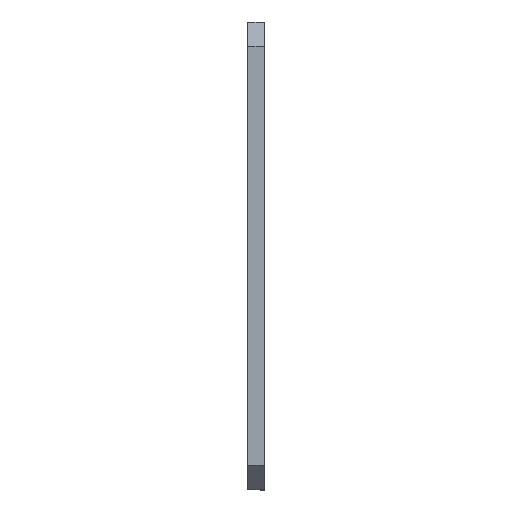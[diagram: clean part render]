
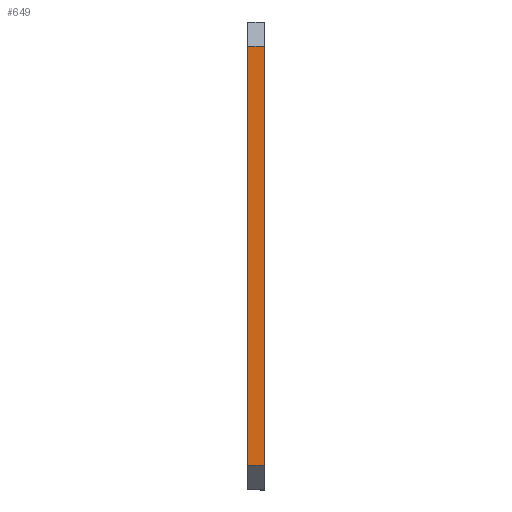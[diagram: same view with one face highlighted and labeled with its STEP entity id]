
A CAD part, top view. The second image highlights one B-rep face of the part: STEP entity #649.
In plain terms, the highlighted planar face has unit normal (0, 0, 1).
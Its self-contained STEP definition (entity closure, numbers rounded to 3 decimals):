
#65 = ORIENTED_EDGE ( 'NONE', *, *, #226, .T. ) ;
#66 = ORIENTED_EDGE ( 'NONE', *, *, #221, .F. ) ;
#67 = ORIENTED_EDGE ( 'NONE', *, *, #215, .F. ) ;
#68 = ORIENTED_EDGE ( 'NONE', *, *, #185, .T. ) ;
#101 = AXIS2_PLACEMENT_3D ( 'NONE', #825, #821, #820 ) ;
#185 = EDGE_CURVE ( 'NONE', #1113, #1120, #407, .T. ) ;
#215 = EDGE_CURVE ( 'NONE', #1113, #1150, #456, .T. ) ;
#221 = EDGE_CURVE ( 'NONE', #1150, #1104, #337, .T. ) ;
#226 = EDGE_CURVE ( 'NONE', #1120, #1104, #346, .T. ) ;
#337 = LINE ( 'NONE', #1012, #338 ) ;
#338 = VECTOR ( 'NONE', #1011, 1000. ) ;
#346 = LINE ( 'NONE', #998, #347 ) ;
#347 = VECTOR ( 'NONE', #997, 1000. ) ;
#407 = LINE ( 'NONE', #868, #415 ) ;
#415 = VECTOR ( 'NONE', #854, 1000. ) ;
#456 = LINE ( 'NONE', #1029, #459 ) ;
#459 = VECTOR ( 'NONE', #1028, 1000. ) ;
#498 = FACE_OUTER_BOUND ( 'NONE', #557, .T. ) ;
#557 = EDGE_LOOP ( 'NONE', ( #65, #66, #67, #68 ) ) ;
#649 = ADVANCED_FACE ( 'NONE', ( #498 ), #824, .F. ) ;
#714 = CARTESIAN_POINT ( 'NONE',  ( 0., 27.5, 16.5 ) ) ;
#744 = CARTESIAN_POINT ( 'NONE',  ( 2., -24.5, 16.5 ) ) ;
#749 = CARTESIAN_POINT ( 'NONE',  ( 0., -24.5, 16.5 ) ) ;
#763 = CARTESIAN_POINT ( 'NONE',  ( 2., 27.5, 16.5 ) ) ;
#820 = DIRECTION ( 'NONE',  ( 1., 0., 0. ) ) ;
#821 = DIRECTION ( 'NONE',  ( 0., 0., -1. ) ) ;
#824 = PLANE ( 'NONE',  #101 ) ;
#825 = CARTESIAN_POINT ( 'NONE',  ( 0., 27.5, 16.5 ) ) ;
#854 = DIRECTION ( 'NONE',  ( 1., 0., 0. ) ) ;
#868 = CARTESIAN_POINT ( 'NONE',  ( 0., -24.5, 16.5 ) ) ;
#997 = DIRECTION ( 'NONE',  ( 0., 1., 0. ) ) ;
#998 = CARTESIAN_POINT ( 'NONE',  ( 2., 27.5, 16.5 ) ) ;
#1011 = DIRECTION ( 'NONE',  ( 1., 0., 0. ) ) ;
#1012 = CARTESIAN_POINT ( 'NONE',  ( 0., 27.5, 16.5 ) ) ;
#1028 = DIRECTION ( 'NONE',  ( 0., 1., 0. ) ) ;
#1029 = CARTESIAN_POINT ( 'NONE',  ( 0., 27.5, 16.5 ) ) ;
#1104 = VERTEX_POINT ( 'NONE', #763 ) ;
#1113 = VERTEX_POINT ( 'NONE', #749 ) ;
#1120 = VERTEX_POINT ( 'NONE', #744 ) ;
#1150 = VERTEX_POINT ( 'NONE', #714 ) ;
